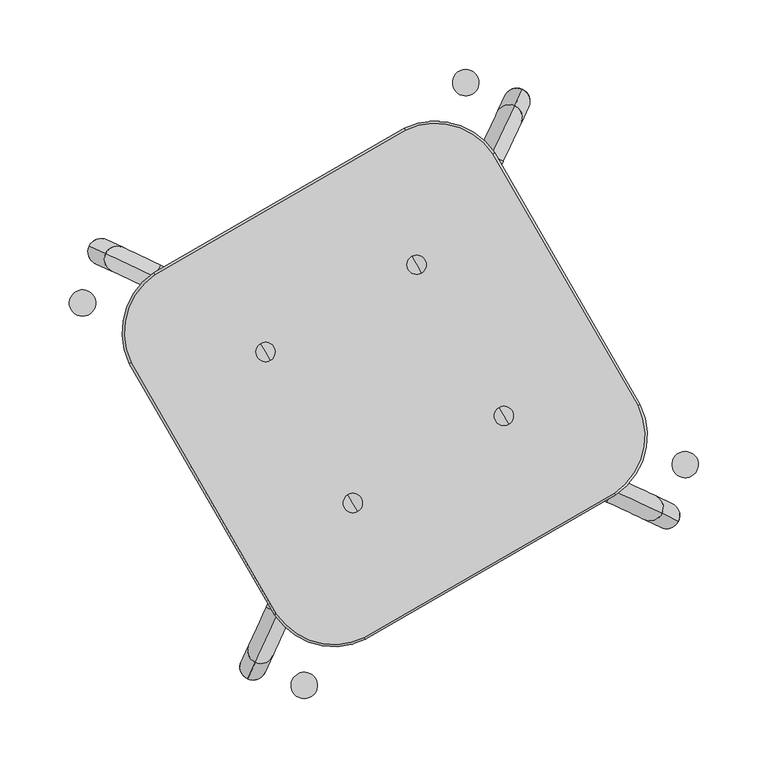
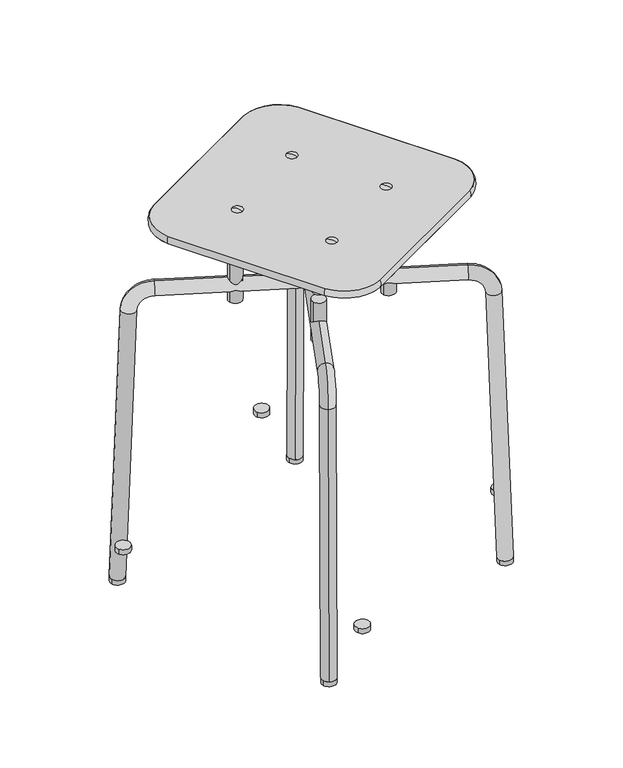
"""IFC4 building model written with IfcOpenShell, lengths in millimetres: furniture geometry, Grip NxT Stool 45 Stack : 45 Unupholstered."""

from ifc_helpers import new_model, si_unit, point, frame, frame_2d, origin, place, context, project, spatial, polyline, circle_curve, ellipse_curve, trimmed, segment, composite_curve, outline, extrude, source, transform, mapped, element, save
from ifc_brep_helpers import plane_surface, cylinder_surface, revolved_surface, advanced_brep


def furniture_2fb2c996(model_context):
    return source(origin(), model_context, "Body", "SolidModel", [
        extrude(outline(composite_curve([segment(trimmed(circle_curve(frame_2d((-22.9244347, -85.9798092)), 9.0), [point((-30.7186634, -90.4798092))], [point((-15.1302061, -81.4798092))], False, "CARTESIAN"), True, "CONTINUOUS"), segment(trimmed(circle_curve(frame_2d((-22.9244347, -85.9798092)), 9.0), [point((-15.1302061, -81.4798092))], [point((-30.7186634, -90.4798092))], False, "CARTESIAN"), True, "CONTINUOUS")], self_intersect=False)), frame((0.0, 0.0, 598.5318909), z_axis=(0.0, 0.0, 1.0), x_axis=(1.0, 0.0, 0.0)), (0.0, 0.0, 1.0), 56.7956238),
        extrude(outline(composite_curve([segment(trimmed(circle_curve(frame_2d((-85.915101, 23.0065551)), 9.0), [point((-93.7093296, 18.5065551))], [point((-78.1208723, 27.5065551))], False, "CARTESIAN"), True, "CONTINUOUS"), segment(trimmed(circle_curve(frame_2d((-85.915101, 23.0065551)), 9.0), [point((-78.1208723, 27.5065551))], [point((-93.7093296, 18.5065551))], False, "CARTESIAN"), True, "CONTINUOUS")], self_intersect=False)), frame((0.0, 0.0, 598.5318909), z_axis=(0.0, 0.0, 1.0), x_axis=(1.0, 0.0, 0.0)), (0.0, 0.0, 1.0), 56.7956238),
        extrude(outline(composite_curve([segment(trimmed(circle_curve(frame_2d((23.2528528, 85.7629699)), 9.0), [point((31.0470814, 90.2629699))], [point((15.4586241, 81.2629699))], False, "CARTESIAN"), True, "CONTINUOUS"), segment(trimmed(circle_curve(frame_2d((23.2528528, 85.7629699)), 9.0), [point((15.4586241, 81.2629699))], [point((31.0470814, 90.2629699))], False, "CARTESIAN"), True, "CONTINUOUS")], self_intersect=False)), frame((0.0, 0.0, 598.5318909), z_axis=(0.0, 0.0, 1.0), x_axis=(1.0, 0.0, 0.0)), (0.0, 0.0, 1.0), 56.7956238),
        extrude(outline(composite_curve([segment(trimmed(circle_curve(frame_2d((85.9229164, -23.1367618)), 9.0), [point((93.717145, -18.6367618))], [point((78.1286877, -27.6367618))], False, "CARTESIAN"), True, "CONTINUOUS"), segment(trimmed(circle_curve(frame_2d((85.9229164, -23.1367618)), 9.0), [point((78.1286877, -27.6367618))], [point((93.717145, -18.6367618))], False, "CARTESIAN"), True, "CONTINUOUS")], self_intersect=False)), frame((0.0, 0.0, 598.5318909), z_axis=(0.0, 0.0, 1.0), x_axis=(1.0, 0.0, 0.0)), (0.0, 0.0, 1.0), 56.7956238),
        extrude(outline(composite_curve([segment(trimmed(circle_curve(frame_2d((-58.0290526, -217.3051882)), 9.5), [point((-66.2562939, -222.0551882))], [point((-49.8018112, -212.5551882))], False, "CARTESIAN"), True, "CONTINUOUS"), segment(trimmed(circle_curve(frame_2d((-58.0290526, -217.3051882)), 9.5), [point((-49.8018112, -212.5551882))], [point((-66.2562939, -222.0551882))], False, "CARTESIAN"), True, "CONTINUOUS")], self_intersect=False)), frame((0.0, 0.0, 210.0), z_axis=(0.0, 0.0, 1.0), x_axis=(1.0, 0.0, 0.0)), (0.0, 0.0, 1.0), 7.0),
        extrude(outline(composite_curve([segment(trimmed(circle_curve(frame_2d((-217.8743959, 58.3859005)), 9.5), [point((-226.1016372, 53.6359005))], [point((-209.6471545, 63.1359005))], False, "CARTESIAN"), True, "CONTINUOUS"), segment(trimmed(circle_curve(frame_2d((-217.8743959, 58.3859005)), 9.5), [point((-209.6471545, 63.1359005))], [point((-226.1016372, 53.6359005))], False, "CARTESIAN"), True, "CONTINUOUS")], self_intersect=False)), frame((0.0, 0.0, 210.0), z_axis=(0.0, 0.0, 1.0), x_axis=(1.0, 0.0, 0.0)), (0.0, 0.0, 1.0), 7.0),
        extrude(outline(composite_curve([segment(trimmed(circle_curve(frame_2d((58.3736353, 217.266252)), 9.5325021), [point((50.1182463, 212.500001))], [point((66.6290244, 222.0325031))], False, "CARTESIAN"), True, "CONTINUOUS"), segment(trimmed(circle_curve(frame_2d((58.3736353, 217.266252)), 9.5325021), [point((66.6290244, 222.0325031))], [point((50.1182463, 212.500001))], False, "CARTESIAN"), True, "CONTINUOUS")], self_intersect=False)), frame((0.0, 0.0, 210.0), z_axis=(0.0, 0.0, 1.0), x_axis=(1.0, 0.0, 0.0)), (0.0, 0.0, 1.0), 7.0),
        extrude(outline(composite_curve([segment(trimmed(circle_curve(frame_2d((216.5856759, -58.0430458)), 9.5), [point((208.3584346, -62.7930458))], [point((224.8129172, -53.2930458))], False, "CARTESIAN"), True, "CONTINUOUS"), segment(trimmed(circle_curve(frame_2d((216.5856759, -58.0430458)), 9.5), [point((224.8129172, -53.2930458))], [point((208.3584346, -62.7930458))], False, "CARTESIAN"), True, "CONTINUOUS")], self_intersect=False)), frame((0.0, 0.0, 210.0), z_axis=(0.0, 0.0, 1.0), x_axis=(1.0, 0.0, 0.0)), (0.0, 0.0, 1.0), 7.0),
        advanced_brep(
        [(26.4675422, 79.8861202, 665.3895874), (19.5207725, 91.9182783, 665.3895874), (22.9941574, 85.9021992, 665.3895874), (22.9941574, 85.9021992, 666.5699158)],
        [
            (0, 1, circle_curve(frame((22.9941574, 85.9021992, 665.3895874), z_axis=(0.0, 0.0, -1.0), x_axis=(-0.499999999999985, 0.8660254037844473, 0.0)), 6.9467697)),
            (1, 2),
            (2, 0),
            (1, 0, circle_curve(frame((22.9941574, 85.9021992, 665.3895874), z_axis=(0.0, 0.0, -1.0), x_axis=(-0.499999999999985, 0.8660254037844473, 0.0)), 6.9467697)),
            (3, 1, circle_curve(frame((22.8806318, 86.0988312, 646.8735995), z_axis=(-0.8660254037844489, -0.4999999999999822, 0.0), x_axis=(-0.4999999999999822, 0.8660254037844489, 0.0)), 19.6976249)),
            (0, 3, circle_curve(frame((23.1076829, 85.7055672, 646.8735995), z_axis=(-0.8660254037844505, -0.49999999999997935, 0.0), x_axis=(0.49999999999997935, -0.8660254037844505, 0.0)), 19.6976249)),
        ],
        [
            plane_surface(frame((22.9941574, 85.9021992, 665.3895874), z_axis=(0.0, 0.0, -1.0000000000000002), x_axis=(-0.49999999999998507, 0.8660254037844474, 0.0))),
            revolved_surface(trimmed(ellipse_curve(frame((22.8806318, 86.0988312, 646.8735995), z_axis=(0.8660254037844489, 0.4999999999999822, 0.0), x_axis=(-0.4999999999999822, 0.8660254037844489, 0.0)), 19.6976249, 19.6976249), [point((19.5207725, 91.9182783, 665.3895874))], [point((22.9941574, 85.9021992, 666.5699158))], True, "CARTESIAN"), (22.9941574, 85.9021992, 666.2266692), (0.0, 0.0, 1.0)),
        ],
        [
            (0, [[1, 2, 3]]),
            (0, [[4, -3, -2]]),
            (1, [[5, -1, 6]]),
            (1, [[-6, -4, -5]]),
        ],
    ),
        advanced_brep(
        [(85.8905654, -23.0375752, 665.3895874), (89.3639503, -29.0536542, 665.3895874), (82.4171806, -17.0214961, 665.3895874), (85.8905654, -23.0375752, 666.5699158)],
        [
            (0, 1),
            (1, 2, circle_curve(frame((85.8905654, -23.0375752, 665.3895874), z_axis=(0.0, 0.0, -1.0), x_axis=(0.499999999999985, -0.8660254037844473, 0.0)), 6.9467697)),
            (2, 0),
            (2, 1, circle_curve(frame((85.8905654, -23.0375752, 665.3895874), z_axis=(0.0, 0.0, -1.0), x_axis=(0.499999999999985, -0.8660254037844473, 0.0)), 6.9467697)),
            (1, 3, circle_curve(frame((86.004091, -23.2342072, 646.8735995), z_axis=(-0.8660254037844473, -0.499999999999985, 0.0), x_axis=(0.499999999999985, -0.8660254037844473, 0.0)), 19.6976249)),
            (3, 2, circle_curve(frame((85.7770399, -22.8409432, 646.8735995), z_axis=(-0.8660254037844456, -0.4999999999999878, 0.0), x_axis=(-0.4999999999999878, 0.8660254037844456, 0.0)), 19.6976249)),
        ],
        [
            plane_surface(frame((85.8905654, -23.0375752, 665.3895874), z_axis=(0.0, 0.0, -1.0000000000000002), x_axis=(0.49999999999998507, -0.8660254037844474, 0.0))),
            revolved_surface(trimmed(ellipse_curve(frame((86.004091, -23.2342072, 646.8735995), z_axis=(0.8660254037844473, 0.499999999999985, 0.0), x_axis=(0.499999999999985, -0.8660254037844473, 0.0)), 19.6976249, 19.6976249), [point((85.8905654, -23.0375752, 666.5699158))], [point((89.3639503, -29.0536542, 665.3895874))], True, "CARTESIAN"), (85.8905654, -23.0375752, 666.2266692), (0.0, 0.0, -1.0)),
        ],
        [
            (0, [[1, 2, 3]]),
            (0, [[-3, 4, -1]]),
            (1, [[-2, 5, 6]]),
            (1, [[-4, -6, -5]]),
        ],
    ),
        advanced_brep(
        [(-85.8905654, 23.0375752, 665.3895874), (-89.3639503, 29.0536542, 665.3895874), (-82.4171806, 17.0214961, 665.3895874), (-85.8905654, 23.0375752, 666.5699158)],
        [
            (0, 1),
            (1, 2, circle_curve(frame((-85.8905654, 23.0375752, 665.3895874), z_axis=(0.0, 0.0, -1.0), x_axis=(-0.4999999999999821, 0.8660254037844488, 0.0)), 6.9467697)),
            (2, 0),
            (2, 1, circle_curve(frame((-85.8905654, 23.0375752, 665.3895874), z_axis=(0.0, 0.0, -1.0), x_axis=(-0.4999999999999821, 0.8660254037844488, 0.0)), 6.9467697)),
            (1, 3, circle_curve(frame((-86.004091, 23.2342072, 646.8735995), z_axis=(0.8660254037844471, 0.49999999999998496, 0.0), x_axis=(-0.49999999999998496, 0.8660254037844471, 0.0)), 19.6976249)),
            (3, 2, circle_curve(frame((-85.7770399, 22.8409432, 646.8735995), z_axis=(0.8660254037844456, 0.4999999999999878, 0.0), x_axis=(0.4999999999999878, -0.8660254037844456, 0.0)), 19.6976249)),
        ],
        [
            plane_surface(frame((-85.8905654, 23.0375752, 665.3895874), z_axis=(0.0, 0.0, -1.0), x_axis=(-0.4999999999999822, 0.8660254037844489, 0.0))),
            revolved_surface(trimmed(ellipse_curve(frame((-86.004091, 23.2342072, 646.8735995), z_axis=(-0.8660254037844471, -0.49999999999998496, 0.0), x_axis=(-0.49999999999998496, 0.8660254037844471, 0.0)), 19.6976249, 19.6976249), [point((-85.8905654, 23.0375752, 666.5699158))], [point((-89.3639503, 29.0536542, 665.3895874))], True, "CARTESIAN"), (-85.8905654, 23.0375752, 666.2266692), (0.0, 0.0, -1.0)),
        ],
        [
            (0, [[1, 2, 3]]),
            (0, [[-3, 4, -1]]),
            (1, [[-2, 5, 6]]),
            (1, [[-4, -6, -5]]),
        ],
    ),
        advanced_brep(
        [(-26.4675422, -79.8861202, 665.3895874), (-19.5207725, -91.9182783, 665.3895874), (-22.9941574, -85.9021992, 665.3895874), (-22.9941574, -85.9021992, 666.5699158)],
        [
            (0, 1, circle_curve(frame((-22.9941574, -85.9021992, 665.3895874), z_axis=(0.0, 0.0, -1.0), x_axis=(0.4999999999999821, -0.8660254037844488, 0.0)), 6.9467697)),
            (1, 2),
            (2, 0),
            (1, 0, circle_curve(frame((-22.9941574, -85.9021992, 665.3895874), z_axis=(0.0, 0.0, -1.0), x_axis=(0.4999999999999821, -0.8660254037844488, 0.0)), 6.9467697)),
            (3, 1, circle_curve(frame((-22.8806318, -86.0988312, 646.8735995), z_axis=(0.8660254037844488, 0.4999999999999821, 0.0), x_axis=(0.4999999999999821, -0.8660254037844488, 0.0)), 19.6976249)),
            (0, 3, circle_curve(frame((-23.1076829, -85.7055672, 646.8735995), z_axis=(0.8660254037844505, 0.49999999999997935, 0.0), x_axis=(-0.49999999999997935, 0.8660254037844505, 0.0)), 19.6976249)),
        ],
        [
            plane_surface(frame((-22.9941574, -85.9021992, 665.3895874), z_axis=(0.0, 0.0, -1.0), x_axis=(0.4999999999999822, -0.8660254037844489, 0.0))),
            revolved_surface(trimmed(ellipse_curve(frame((-22.8806318, -86.0988312, 646.8735995), z_axis=(-0.8660254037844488, -0.4999999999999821, 0.0), x_axis=(0.4999999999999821, -0.8660254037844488, 0.0)), 19.6976249, 19.6976249), [point((-19.5207725, -91.9182783, 665.3895874))], [point((-22.9941574, -85.9021992, 666.5699158))], True, "CARTESIAN"), (-22.9941574, -85.9021992, 666.2266692), (0.0, 0.0, 1.0)),
        ],
        [
            (0, [[1, 2, 3]]),
            (0, [[4, -3, -2]]),
            (1, [[5, -1, 6]]),
            (1, [[-6, -4, -5]]),
        ],
    ),
        advanced_brep(
        [(-78.0446394, -165.8920447, 665.4041136), (-14.6591499, -182.8643996, 665.4041136), (-14.6591499, -182.8643996, 655.4041138), (-78.0446394, -165.8920447, 655.4041138), (-182.6890447, 15.3573819, 665.4041136), (-182.6890447, 15.3573819, 655.4041138), (-165.6947904, 78.7370036, 665.4041136), (-165.6947904, 78.7370036, 655.4041138), (14.6591499, 182.8643996, 665.4041136), (14.6591499, 182.8643996, 655.4041138), (78.0446394, 165.8920447, 665.4041136), (78.0446394, 165.8920447, 655.4041138), (182.6890447, -15.3573819, 665.4041136), (182.6890447, -15.3573819, 655.4041138), (165.6947904, -78.7370036, 665.4041136), (165.6947904, -78.7370036, 655.4041138)],
        [
            (0, 1, circle_curve(frame((-36.592942, -137.9321309, 665.4041136), z_axis=(0.0, 0.0, 1.0), x_axis=(0.43867584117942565, -0.8986453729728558, 0.0)), 50.0)),
            (1, 2),
            (2, 3, circle_curve(frame((-36.592942, -137.9321309, 655.4041138), z_axis=(0.0, 0.0, -1.0), x_axis=(0.43867584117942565, -0.8986453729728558, 0.0)), 50.0)),
            (3, 0),
            (4, 0, circle_curve(frame((1165.506285, 672.9053674, 665.4041136), z_axis=(0.0, 0.0, 1.0), x_axis=(-0.8290339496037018, -0.5591982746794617, 0.0)), 1500.0)),
            (3, 5, circle_curve(frame((1165.506285, 672.9053674, 655.4041138), z_axis=(0.0, 0.0, -1.0), x_axis=(-0.8290339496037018, -0.5591982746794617, 0.0)), 1500.0)),
            (5, 4),
            (6, 4, circle_curve(frame((-137.7492004, 37.2756481, 665.4041136), z_axis=(0.0, 0.0, 1.0), x_axis=(-0.8987968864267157, -0.43836532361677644, 0.0)), 50.0)),
            (5, 7, circle_curve(frame((-137.7492004, 37.2756481, 655.4041138), z_axis=(0.0, 0.0, -1.0), x_axis=(-0.8987968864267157, -0.43836532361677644, 0.0)), 50.0)),
            (7, 6),
            (8, 6, circle_curve(frame((672.6729117, -1165.1036599, 665.4041136), z_axis=(0.0, 0.0, 1.0), x_axis=(-0.558911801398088, 0.8292271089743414, 0.0)), 1500.0)),
            (7, 9, circle_curve(frame((672.6729117, -1165.1036599, 655.4041138), z_axis=(0.0, 0.0, -1.0), x_axis=(-0.558911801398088, 0.8292271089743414, 0.0)), 1500.0)),
            (9, 8),
            (10, 8, circle_curve(frame((36.592942, 137.9321309, 665.4041136), z_axis=(0.0, 0.0, 1.0), x_axis=(-0.43867584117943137, 0.8986453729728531, 0.0)), 50.0)),
            (9, 11, circle_curve(frame((36.592942, 137.9321309, 655.4041138), z_axis=(0.0, 0.0, -1.0), x_axis=(-0.43867584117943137, 0.8986453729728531, 0.0)), 50.0)),
            (11, 10),
            (12, 10, circle_curve(frame((-1165.506285, -672.9053674, 665.4041136), z_axis=(0.0, 0.0, 1.0), x_axis=(0.8290339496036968, 0.559198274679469, 0.0)), 1500.0)),
            (11, 13, circle_curve(frame((-1165.506285, -672.9053674, 655.4041138), z_axis=(0.0, 0.0, -1.0), x_axis=(0.8290339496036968, 0.559198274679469, 0.0)), 1500.0)),
            (13, 12),
            (14, 12, circle_curve(frame((137.7492004, -37.2756481, 665.4041136), z_axis=(0.0, 0.0, 1.0), x_axis=(0.8987968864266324, 0.4383653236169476, 0.0)), 50.0)),
            (13, 15, circle_curve(frame((137.7492004, -37.2756481, 655.4041138), z_axis=(0.0, 0.0, -1.0), x_axis=(0.8987968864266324, 0.4383653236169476, 0.0)), 50.0)),
            (15, 14),
            (1, 14, circle_curve(frame((-672.6729117, 1165.1036599, 665.4041136), z_axis=(0.0, 0.0, 1.0), x_axis=(0.5589118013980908, -0.8292271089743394, 0.0)), 1500.0)),
            (15, 2, circle_curve(frame((-672.6729117, 1165.1036599, 655.4041138), z_axis=(0.0, 0.0, -1.0), x_axis=(0.5589118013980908, -0.8292271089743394, 0.0)), 1500.0)),
            (2, 1, circle_curve(frame((-17.9418993, -176.1395533, 660.4041137), z_axis=(-0.8986453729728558, -0.4386758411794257, 0.0), x_axis=(0.4386758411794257, -0.8986453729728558, 0.0)), 9.0)),
            (0, 3, circle_curve(frame((-71.8407174, -161.7073879, 660.4041137), z_axis=(0.5591982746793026, -0.8290339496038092, 0.0), x_axis=(-0.8290339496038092, -0.5591982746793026, 0.0)), 9.0)),
            (4, 5, circle_curve(frame((-175.9630646, 18.6378077, 660.4041137), z_axis=(0.43836532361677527, -0.8987968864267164, 0.0), x_axis=(-0.8987968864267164, -0.43836532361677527, 0.0)), 9.0)),
            (6, 7, circle_curve(frame((-161.5122775, 72.5316361, 660.4041137), z_axis=(-0.8292271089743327, -0.5589118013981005, 0.0), x_axis=(-0.5589118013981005, 0.8292271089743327, 0.0)), 9.0)),
            (8, 9, circle_curve(frame((17.9418993, 176.1395533, 660.4041137), z_axis=(-0.8986453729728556, -0.4386758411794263, 0.0), x_axis=(-0.4386758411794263, 0.8986453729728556, 0.0)), 9.0)),
            (10, 11, circle_curve(frame((71.8407174, 161.7073879, 660.4041137), z_axis=(-0.5591982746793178, 0.829033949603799, 0.0), x_axis=(0.829033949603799, 0.5591982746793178, 0.0)), 9.0)),
            (12, 13, circle_curve(frame((175.9630646, -18.6378077, 660.4041137), z_axis=(-0.43836532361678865, 0.8987968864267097, 0.0), x_axis=(0.8987968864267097, 0.43836532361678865, 0.0)), 9.0)),
            (14, 15, circle_curve(frame((161.5122775, -72.5316361, 660.4041137), z_axis=(0.8292271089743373, 0.5589118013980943, 0.0), x_axis=(0.5589118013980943, -0.8292271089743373, 0.0)), 9.0)),
        ],
        [
            revolved_surface(polyline([(-14.65914994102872, -182.86439954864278, 655.4041138), (-14.65914994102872, -182.86439954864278, 665.4041136)]), (-36.592942, -137.9321309, 665.4041136), (0.0, 0.0, -1.0)),
            revolved_surface(polyline([(-78.04463940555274, -165.89204461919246, 655.4041138), (-78.04463940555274, -165.89204461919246, 665.4041136)]), (1165.506285, 672.9053674, 665.4041136), (0.0, 0.0, -1.0)),
            revolved_surface(polyline([(-182.6890447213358, 15.357381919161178, 655.4041138), (-182.6890447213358, 15.357381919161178, 665.4041136)]), (-137.7492004, 37.2756481, 665.4041136), (0.0, 0.0, -1.0)),
            revolved_surface(polyline([(-165.69479039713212, 78.73700356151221, 655.4041138), (-165.69479039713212, 78.73700356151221, 665.4041136)]), (672.6729117, -1165.1036599, 665.4041136), (0.0, 0.0, -1.0)),
            revolved_surface(polyline([(14.659149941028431, 182.86439954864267, 655.4041138), (14.659149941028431, 182.86439954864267, 665.4041136)]), (36.592942, 137.9321309, 665.4041136), (0.0, 0.0, -1.0)),
            revolved_surface(polyline([(78.04463940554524, 165.8920446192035, 655.4041138), (78.04463940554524, 165.8920446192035, 665.4041136)]), (-1165.506285, -672.9053674, 665.4041136), (0.0, 0.0, -1.0)),
            revolved_surface(polyline([(182.68904472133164, -15.357381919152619, 655.4041138), (182.68904472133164, -15.357381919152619, 665.4041136)]), (137.7492004, -37.2756481, 665.4041136), (0.0, 0.0, -1.0)),
            revolved_surface(polyline([(165.69479039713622, -78.73700356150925, 655.4041138), (165.69479039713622, -78.73700356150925, 665.4041136)]), (-672.6729117, 1165.1036599, 665.4041136), (0.0, 0.0, -1.0)),
            revolved_surface(trimmed(ellipse_curve(frame((-17.9418993, -176.1395533, 660.4041137), z_axis=(0.8986453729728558, 0.4386758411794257, 0.0), x_axis=(0.4386758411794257, -0.8986453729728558, 0.0)), 9.0, 9.0), [point((-14.6591499, -182.8643996, 665.4041136))], [point((-14.6591499, -182.8643996, 655.4041138))], True, "CARTESIAN"), (-36.592942, -137.9321309, 665.4041136), (0.0, 0.0, -1.0)),
            revolved_surface(trimmed(ellipse_curve(frame((-71.8407174, -161.7073879, 660.4041137), z_axis=(0.5591982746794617, -0.8290339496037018, 0.0), x_axis=(-0.8290339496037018, -0.5591982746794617, 0.0)), 9.0, 9.0), [point((-78.0446394, -165.8920447, 665.4041136))], [point((-78.0446394, -165.8920447, 655.4041138))], True, "CARTESIAN"), (1165.506285, 672.9053674, 665.4041136), (0.0, 0.0, -1.0)),
            revolved_surface(trimmed(ellipse_curve(frame((-175.9630646, 18.6378077, 660.4041137), z_axis=(0.4383653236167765, -0.8987968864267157, 0.0), x_axis=(-0.8987968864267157, -0.4383653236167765, 0.0)), 9.0, 9.0), [point((-182.6890447, 15.3573819, 665.4041136))], [point((-182.6890447, 15.3573819, 655.4041138))], True, "CARTESIAN"), (-137.7492004, 37.2756481, 665.4041136), (0.0, 0.0, -1.0)),
            revolved_surface(trimmed(ellipse_curve(frame((-161.5122775, 72.5316361, 660.4041137), z_axis=(-0.8292271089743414, -0.558911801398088, 0.0), x_axis=(-0.558911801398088, 0.8292271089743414, 0.0)), 9.0, 9.0), [point((-165.6947904, 78.7370036, 665.4041136))], [point((-165.6947904, 78.7370036, 655.4041138))], True, "CARTESIAN"), (672.6729117, -1165.1036599, 665.4041136), (0.0, 0.0, -1.0)),
            revolved_surface(trimmed(ellipse_curve(frame((17.9418993, 176.1395533, 660.4041137), z_axis=(-0.8986453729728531, -0.43867584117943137, 0.0), x_axis=(-0.43867584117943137, 0.8986453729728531, 0.0)), 9.0, 9.0), [point((14.6591499, 182.8643996, 665.4041136))], [point((14.6591499, 182.8643996, 655.4041138))], True, "CARTESIAN"), (36.592942, 137.9321309, 665.4041136), (0.0, 0.0, -1.0)),
            revolved_surface(trimmed(ellipse_curve(frame((71.8407174, 161.7073879, 660.4041137), z_axis=(-0.559198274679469, 0.8290339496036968, 0.0), x_axis=(0.8290339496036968, 0.559198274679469, 0.0)), 9.0, 9.0), [point((78.0446394, 165.8920447, 665.4041136))], [point((78.0446394, 165.8920447, 655.4041138))], True, "CARTESIAN"), (-1165.506285, -672.9053674, 665.4041136), (0.0, 0.0, -1.0)),
            revolved_surface(trimmed(ellipse_curve(frame((175.9630646, -18.6378077, 660.4041137), z_axis=(-0.4383653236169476, 0.8987968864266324, 0.0), x_axis=(0.8987968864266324, 0.4383653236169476, 0.0)), 9.0, 9.0), [point((182.6890447, -15.3573819, 665.4041136))], [point((182.6890447, -15.3573819, 655.4041138))], True, "CARTESIAN"), (137.7492004, -37.2756481, 665.4041136), (0.0, 0.0, -1.0)),
            revolved_surface(trimmed(ellipse_curve(frame((161.5122775, -72.5316361, 660.4041137), z_axis=(0.8292271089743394, 0.5589118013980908, 0.0), x_axis=(0.5589118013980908, -0.8292271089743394, 0.0)), 9.0, 9.0), [point((165.6947904, -78.7370036, 665.4041136))], [point((165.6947904, -78.7370036, 655.4041138))], True, "CARTESIAN"), (-672.6729117, 1165.1036599, 665.4041136), (0.0, 0.0, -1.0)),
        ],
        [
            (0, [[1, 2, 3, 4]]),
            (1, [[5, -4, 6, 7]]),
            (2, [[8, -7, 9, 10]]),
            (3, [[11, -10, 12, 13]]),
            (4, [[14, -13, 15, 16]]),
            (5, [[17, -16, 18, 19]]),
            (6, [[20, -19, 21, 22]]),
            (7, [[23, -22, 24, -2]]),
            (8, [[-3, 25, -1, 26]]),
            (9, [[-6, -26, -5, 27]]),
            (10, [[-9, -27, -8, 28]]),
            (11, [[-12, -28, -11, 29]]),
            (12, [[-15, -29, -14, 30]]),
            (13, [[-18, -30, -17, 31]]),
            (14, [[-21, -31, -20, 32]]),
            (15, [[-24, -32, -23, -25]]),
        ],
    ),
        extrude(outline(composite_curve([segment(trimmed(circle_curve(frame_2d((36.592942, 137.9321309)), 50.0), [point((14.6591499, 182.8643996))], [point((78.0446394, 165.8920447))], False, "CARTESIAN"), True, "CONTINUOUS"), segment(trimmed(circle_curve(frame_2d((-1165.506285, -672.9053674)), 1500.0), [point((78.0446394, 165.8920447))], [point((182.6890447, -15.3573819))], False, "CARTESIAN"), True, "CONTINUOUS"), segment(trimmed(circle_curve(frame_2d((137.7492004, -37.2756481)), 50.0), [point((182.6890447, -15.3573819))], [point((165.6947904, -78.7370036))], False, "CARTESIAN"), True, "CONTINUOUS"), segment(trimmed(circle_curve(frame_2d((-672.6729117, 1165.1036599)), 1500.0), [point((165.6947904, -78.7370036))], [point((-14.6591499, -182.8643996))], False, "CARTESIAN"), True, "CONTINUOUS"), segment(trimmed(circle_curve(frame_2d((-36.592942, -137.9321309)), 50.0), [point((-14.6591499, -182.8643996))], [point((-78.0446394, -165.8920447))], False, "CARTESIAN"), True, "CONTINUOUS"), segment(trimmed(circle_curve(frame_2d((1165.506285, 672.9053674)), 1500.0), [point((-78.0446394, -165.8920447))], [point((-182.6890447, 15.3573819))], False, "CARTESIAN"), True, "CONTINUOUS"), segment(trimmed(circle_curve(frame_2d((-137.7492004, 37.2756481)), 50.0), [point((-182.6890447, 15.3573819))], [point((-165.6947904, 78.7370036))], False, "CARTESIAN"), True, "CONTINUOUS"), segment(trimmed(circle_curve(frame_2d((672.6729117, -1165.1036599)), 1500.0), [point((-165.6947904, 78.7370036))], [point((14.6591499, 182.8643996))], False, "CARTESIAN"), True, "CONTINUOUS")], self_intersect=False)), frame((0.0, 0.0, 655.3753358), z_axis=(0.0, 0.0, 1.0), x_axis=(1.0, 0.0, 0.0)), (0.0, 0.0, 1.0), 9.9999998),
        advanced_brep(
        [(211.8093482, -98.7683212, 146.7653221), (194.5999902, -90.7434657, 146.1022316), (199.9441386, -93.235483, 521.66572), (182.7347805, -85.2106275, 521.0026295), (164.1667888, -76.5522309, 559.7871899), (164.1667888, -76.5522309, 540.7871899), (0.1684531, -0.078551, 559.7871899), (0.1684531, -0.078551, 540.7871899), (-165.4741262, 77.1618523, 559.7871899), (-165.4741262, 77.1618523, 540.7871899), (-201.2514759, 93.8451044, 521.66572), (-184.0421178, 85.820249, 521.0026295), (-213.1151948, 99.3772474, 146.812426), (-195.9058367, 91.3523919, 146.1493355), (99.2412374, 212.3837205, 146.7653221), (91.2163819, 195.1743625, 146.1022316), (93.7083993, 200.5185109, 521.66572), (85.6835438, 183.3091528, 521.0026295), (77.0251471, 164.7411611, 559.7871899), (77.0251471, 164.7411611, 540.7871899), (-76.688936, -164.8997539, 559.7871899), (-76.688936, -164.8997539, 540.7871899), (-93.3721882, -200.6771036, 521.66572), (-85.3473327, -183.4677455, 521.0026295), (-98.9043312, -212.5408225, 146.812426), (-90.8794757, -195.3314644, 146.1493355)],
        [
            (0, 1, circle_curve(frame((203.2046692, -94.7558934, 146.4337769), z_axis=(0.03162968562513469, -0.014749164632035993, -0.9993908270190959), x_axis=(-0.9057556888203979, 0.4223608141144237, -0.034899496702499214)), 9.5)),
            (1, 0, circle_curve(frame((203.2046692, -94.7558934, 146.4337769), z_axis=(0.03162968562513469, -0.014749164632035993, -0.9993908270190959), x_axis=(-0.9057556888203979, 0.4223608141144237, -0.034899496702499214)), 9.5)),
            (0, 2),
            (2, 3, circle_curve(frame((191.3394595, -89.2230553, 521.3341748), z_axis=(0.03162968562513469, -0.014749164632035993, -0.9993908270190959), x_axis=(-0.9057556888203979, 0.4223608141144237, -0.034899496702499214)), 9.5)),
            (3, 1),
            (3, 2, circle_curve(frame((191.3394595, -89.2230553, 521.3341748), z_axis=(0.03162968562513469, -0.014749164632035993, -0.9993908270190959), x_axis=(-0.9057556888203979, 0.4223608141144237, -0.034899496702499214)), 9.5)),
            (2, 4, circle_curve(frame((164.1667888, -76.5522309, 520.2871899), z_axis=(-0.4226182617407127, -0.9063077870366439, 0.0), x_axis=(0.9057556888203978, -0.4223608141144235, 0.03489949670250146)), 39.5)),
            (4, 5, circle_curve(frame((164.1667888, -76.5522309, 550.2871899), z_axis=(0.9063077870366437, -0.42261826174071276, 0.0), x_axis=(0.0, 0.0, -1.0)), 9.5)),
            (5, 3, circle_curve(frame((164.1667888, -76.5522309, 520.2871899), z_axis=(0.4226182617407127, 0.9063077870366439, 0.0), x_axis=(0.9057556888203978, -0.4223608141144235, 0.03489949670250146)), 20.5)),
            (5, 4, circle_curve(frame((164.1667888, -76.5522309, 550.2871899), z_axis=(0.9063077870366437, -0.42261826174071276, 0.0), x_axis=(0.0, 0.0, -1.0)), 9.5)),
            (4, 6),
            (6, 7, ellipse_curve(frame((0.1684531, -0.078551, 550.2871899), z_axis=(0.9396926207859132, 0.34202014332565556, 0.0), x_axis=(0.34202014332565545, -0.9396926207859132, 0.0)), 13.4350288, 9.5)),
            (7, 5),
            (8, 9, circle_curve(frame((-165.4741262, 77.1618523, 550.2871899), z_axis=(0.9063077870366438, -0.4226182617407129, 0.0), x_axis=(0.0, 0.0, -1.0)), 9.5)),
            (9, 7),
            (7, 6, ellipse_curve(frame((0.1684531, -0.078551, 550.2871899), z_axis=(-0.34202014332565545, 0.9396926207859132, 0.0), x_axis=(0.9396926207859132, 0.3420201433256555, 0.0)), 13.4350288, 9.5)),
            (6, 8),
            (7, 6, ellipse_curve(frame((0.1684531, -0.078551, 550.2871899), z_axis=(0.34202014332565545, -0.9396926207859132, 0.0), x_axis=(0.9396926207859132, 0.3420201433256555, 0.0)), 13.4350288, 9.5)),
            (9, 8, circle_curve(frame((-165.4741262, 77.1618523, 550.2871899), z_axis=(0.9063077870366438, -0.4226182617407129, 0.0), x_axis=(0.0, 0.0, -1.0)), 9.5)),
            (6, 7, ellipse_curve(frame((0.1684531, -0.078551, 550.2871899), z_axis=(-0.9396926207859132, -0.34202014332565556, 0.0), x_axis=(0.34202014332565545, -0.9396926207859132, 0.0)), 13.4350288, 9.5)),
            (8, 10, circle_curve(frame((-165.4741262, 77.1618523, 520.2871899), z_axis=(-0.4226182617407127, -0.9063077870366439, 0.0), x_axis=(0.0, 0.0, 1.0)), 39.5)),
            (10, 11, circle_curve(frame((-192.6467969, 89.8326767, 521.3341748), z_axis=(0.03162968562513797, -0.014749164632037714, 0.9993908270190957), x_axis=(0.9057556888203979, -0.42236081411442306, -0.03489949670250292)), 9.5)),
            (11, 9, circle_curve(frame((-165.4741262, 77.1618523, 520.2871899), z_axis=(0.4226182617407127, 0.9063077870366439, 0.0), x_axis=(0.0, 0.0, 1.0)), 20.5)),
            (11, 10, circle_curve(frame((-192.6467969, 89.8326767, 521.3341748), z_axis=(0.03162968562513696, -0.014749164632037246, 0.9993908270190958), x_axis=(0.905755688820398, -0.4223608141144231, -0.03489949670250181)), 9.5)),
            (12, 13, circle_curve(frame((-204.5105158, 95.3648197, 146.4808807), z_axis=(-0.03162968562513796, 0.014749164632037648, -0.9993908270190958), x_axis=(0.9057556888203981, -0.4223608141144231, -0.03489949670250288)), 9.5)),
            (13, 12, circle_curve(frame((-204.5105158, 95.3648197, 146.4808807), z_axis=(-0.03162968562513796, 0.014749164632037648, -0.9993908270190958), x_axis=(0.9057556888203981, -0.4223608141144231, -0.03489949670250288)), 9.5)),
            (10, 12),
            (13, 11),
            (14, 15, circle_curve(frame((95.2288097, 203.7790415, 146.4337769), z_axis=(0.014749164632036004, 0.03162968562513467, -0.9993908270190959), x_axis=(-0.422360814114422, -0.9057556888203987, -0.03489949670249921)), 9.5)),
            (15, 14, circle_curve(frame((95.2288097, 203.7790415, 146.4337769), z_axis=(0.014749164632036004, 0.03162968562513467, -0.9993908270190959), x_axis=(-0.422360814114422, -0.9057556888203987, -0.03489949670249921)), 9.5)),
            (14, 16),
            (16, 17, circle_curve(frame((89.6959715, 191.9138318, 521.3341748), z_axis=(0.014749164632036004, 0.03162968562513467, -0.9993908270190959), x_axis=(-0.422360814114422, -0.9057556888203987, -0.03489949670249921)), 9.5)),
            (17, 15),
            (17, 16, circle_curve(frame((89.6959715, 191.9138318, 521.3341748), z_axis=(0.014749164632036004, 0.03162968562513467, -0.9993908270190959), x_axis=(-0.422360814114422, -0.9057556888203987, -0.03489949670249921)), 9.5)),
            (16, 18, circle_curve(frame((77.0251471, 164.7411611, 520.2871899), z_axis=(0.9063077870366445, -0.4226182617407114, 0.0), x_axis=(0.42236081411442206, 0.9057556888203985, 0.03489949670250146)), 39.5)),
            (18, 19, circle_curve(frame((77.0251471, 164.7411611, 550.2871899), z_axis=(0.4226182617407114, 0.9063077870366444, 0.0), x_axis=(0.0, 0.0, -1.0)), 9.5)),
            (19, 17, circle_curve(frame((77.0251471, 164.7411611, 520.2871899), z_axis=(-0.9063077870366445, 0.4226182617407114, 0.0), x_axis=(0.42236081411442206, 0.9057556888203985, 0.03489949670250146)), 20.5)),
            (19, 18, circle_curve(frame((77.0251471, 164.7411611, 550.2871899), z_axis=(0.4226182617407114, 0.9063077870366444, 0.0), x_axis=(0.0, 0.0, -1.0)), 9.5)),
            (18, 6),
            (7, 19),
            (20, 21, circle_curve(frame((-76.688936, -164.8997539, 550.2871899), z_axis=(0.4226182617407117, 0.9063077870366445, 0.0), x_axis=(0.0, 0.0, -1.0)), 9.5)),
            (21, 7),
            (6, 20),
            (21, 20, circle_curve(frame((-76.688936, -164.8997539, 550.2871899), z_axis=(0.4226182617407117, 0.9063077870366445, 0.0), x_axis=(0.0, 0.0, -1.0)), 9.5)),
            (20, 22, circle_curve(frame((-76.688936, -164.8997539, 520.2871899), z_axis=(0.9063077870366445, -0.4226182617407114, 0.0), x_axis=(0.0, 0.0, 1.0)), 39.5)),
            (22, 23, circle_curve(frame((-89.3597604, -192.0724246, 521.3341748), z_axis=(0.014749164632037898, 0.03162968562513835, 0.9993908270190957), x_axis=(0.42236081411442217, 0.9057556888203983, -0.03489949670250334)), 9.5)),
            (23, 21, circle_curve(frame((-76.688936, -164.8997539, 520.2871899), z_axis=(-0.9063077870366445, 0.4226182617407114, 0.0), x_axis=(0.0, 0.0, 1.0)), 20.5)),
            (23, 22, circle_curve(frame((-89.3597604, -192.0724246, 521.3341748), z_axis=(0.014749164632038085, 0.03162968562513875, 0.9993908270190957), x_axis=(0.42236081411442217, 0.9057556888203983, -0.034899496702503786)), 9.5)),
            (24, 25, circle_curve(frame((-94.8919034, -203.9361435, 146.4808807), z_axis=(-0.01474916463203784, -0.031629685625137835, -0.9993908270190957), x_axis=(0.4223608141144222, 0.9057556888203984, -0.03489949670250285)), 9.5)),
            (25, 24, circle_curve(frame((-94.8919034, -203.9361435, 146.4808807), z_axis=(-0.01474916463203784, -0.031629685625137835, -0.9993908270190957), x_axis=(0.4223608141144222, 0.9057556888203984, -0.03489949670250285)), 9.5)),
            (22, 24),
            (25, 23),
        ],
        [
            plane_surface(frame((203.2046692, -94.7558934, 146.4337769), z_axis=(0.03162968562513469, -0.014749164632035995, -0.9993908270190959), x_axis=(-0.4226182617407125, -0.9063077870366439, 0.0))),
            cylinder_surface(frame((203.2046692, -94.7558934, 146.4337769), z_axis=(0.03162968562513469, -0.014749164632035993, -0.9993908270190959), x_axis=(-0.9057556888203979, 0.4223608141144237, -0.034899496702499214)), 9.5),
            revolved_surface(trimmed(ellipse_curve(frame((191.3394595, -89.2230553, 521.3341748), z_axis=(0.03162968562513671, -0.014749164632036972, -0.9993908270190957), x_axis=(-0.9057556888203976, 0.42236081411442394, -0.03489949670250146)), 9.5, 9.5), [point((199.9441386, -93.235483, 521.66572))], [point((182.7347805, -85.2106275, 521.0026295))], True, "CARTESIAN"), (164.1667888, -76.5522309, 520.2871899), (-0.4226182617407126, -0.9063077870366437, 0.0)),
            revolved_surface(trimmed(ellipse_curve(frame((191.3394595, -89.2230553, 521.3341748), z_axis=(0.03162968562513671, -0.014749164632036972, -0.9993908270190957), x_axis=(-0.9057556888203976, 0.42236081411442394, -0.03489949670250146)), 9.5, 9.5), [point((182.7347805, -85.2106275, 521.0026295))], [point((199.9441386, -93.235483, 521.66572))], True, "CARTESIAN"), (164.1667888, -76.5522309, 520.2871899), (-0.4226182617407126, -0.9063077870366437, 0.0)),
            cylinder_surface(frame((164.1667888, -76.5522309, 550.2871899), z_axis=(0.9063077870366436, -0.42261826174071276, 0.0), x_axis=(0.0, 0.0, -1.0)), 9.5),
            revolved_surface(trimmed(ellipse_curve(frame((-165.4741262, 77.1618523, 550.2871899), z_axis=(0.9063077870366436, -0.4226182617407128, 0.0), x_axis=(0.0, 0.0, -1.0)), 9.5, 9.5), [point((-165.4741262, 77.1618523, 559.7871899))], [point((-165.4741262, 77.1618523, 540.7871899))], True, "CARTESIAN"), (-165.4741262, 77.1618523, 520.2871899), (-0.4226182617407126, -0.9063077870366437, 0.0)),
            revolved_surface(trimmed(ellipse_curve(frame((-165.4741262, 77.1618523, 550.2871899), z_axis=(0.9063077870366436, -0.4226182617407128, 0.0), x_axis=(0.0, 0.0, -1.0)), 9.5, 9.5), [point((-165.4741262, 77.1618523, 540.7871899))], [point((-165.4741262, 77.1618523, 559.7871899))], True, "CARTESIAN"), (-165.4741262, 77.1618523, 520.2871899), (-0.4226182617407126, -0.9063077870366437, 0.0)),
            plane_surface(frame((-204.5105158, 95.3648197, 146.4808807), z_axis=(-0.03162968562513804, 0.014749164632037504, -0.9993908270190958), x_axis=(-0.42261826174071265, -0.9063077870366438, 0.0))),
            cylinder_surface(frame((-192.6467969, 89.8326767, 521.3341748), z_axis=(0.03162968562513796, -0.014749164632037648, 0.9993908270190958), x_axis=(0.9057556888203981, -0.4223608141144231, -0.03489949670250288)), 9.5),
            plane_surface(frame((95.2288097, 203.7790415, 146.4337769), z_axis=(0.014749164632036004, 0.03162968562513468, -0.9993908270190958), x_axis=(0.9063077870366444, -0.4226182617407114, 0.0))),
            cylinder_surface(frame((95.2288097, 203.7790415, 146.4337769), z_axis=(0.014749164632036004, 0.03162968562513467, -0.9993908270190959), x_axis=(-0.422360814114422, -0.9057556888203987, -0.03489949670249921)), 9.5),
            revolved_surface(trimmed(ellipse_curve(frame((89.6959715, 191.9138318, 521.3341748), z_axis=(0.014749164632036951, 0.03162968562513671, -0.9993908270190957), x_axis=(-0.4223608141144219, -0.9057556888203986, -0.034899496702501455)), 9.5, 9.5), [point((93.7083993, 200.5185109, 521.66572))], [point((85.6835438, 183.3091528, 521.0026295))], True, "CARTESIAN"), (77.0251471, 164.7411611, 520.2871899), (0.9063077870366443, -0.42261826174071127, 0.0)),
            revolved_surface(trimmed(ellipse_curve(frame((89.6959715, 191.9138318, 521.3341748), z_axis=(0.014749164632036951, 0.03162968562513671, -0.9993908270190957), x_axis=(-0.4223608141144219, -0.9057556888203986, -0.034899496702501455)), 9.5, 9.5), [point((85.6835438, 183.3091528, 521.0026295))], [point((93.7083993, 200.5185109, 521.66572))], True, "CARTESIAN"), (77.0251471, 164.7411611, 520.2871899), (0.9063077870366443, -0.42261826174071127, 0.0)),
            cylinder_surface(frame((77.0251471, 164.7411611, 550.2871899), z_axis=(0.4226182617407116, 0.9063077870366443, 0.0), x_axis=(0.0, 0.0, -1.0)), 9.5),
            revolved_surface(trimmed(ellipse_curve(frame((-76.688936, -164.8997539, 550.2871899), z_axis=(0.42261826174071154, 0.9063077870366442, 0.0), x_axis=(0.0, 0.0, -1.0)), 9.5, 9.5), [point((-76.688936, -164.8997539, 559.7871899))], [point((-76.688936, -164.8997539, 540.7871899))], True, "CARTESIAN"), (-76.688936, -164.8997539, 520.2871899), (0.9063077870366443, -0.42261826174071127, 0.0)),
            revolved_surface(trimmed(ellipse_curve(frame((-76.688936, -164.8997539, 550.2871899), z_axis=(0.42261826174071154, 0.9063077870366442, 0.0), x_axis=(0.0, 0.0, -1.0)), 9.5, 9.5), [point((-76.688936, -164.8997539, 540.7871899))], [point((-76.688936, -164.8997539, 559.7871899))], True, "CARTESIAN"), (-76.688936, -164.8997539, 520.2871899), (0.9063077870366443, -0.42261826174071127, 0.0)),
            plane_surface(frame((-94.8919034, -203.9361435, 146.4808807), z_axis=(-0.014749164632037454, -0.03162968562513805, -0.9993908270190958), x_axis=(0.9063077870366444, -0.4226182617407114, 0.0))),
            cylinder_surface(frame((-89.3597604, -192.0724246, 521.3341748), z_axis=(0.014749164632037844, 0.03162968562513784, 0.9993908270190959), x_axis=(0.4223608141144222, 0.9057556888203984, -0.03489949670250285)), 9.5),
        ],
        [
            (0, [[1, 2]]),
            (1, [[-1, 3, 4, 5]]),
            (1, [[-2, -5, 6, -3]]),
            (2, [[-4, 7, 8, 9]]),
            (3, [[-6, -9, 10, -7]]),
            (4, [[-8, 11, 12, 13]]),
            (4, [[14, 15, 16, 17]]),
            (4, [[-10, -13, 18, -11]]),
            (4, [[19, -17, 20, -15]]),
            (5, [[-14, 21, 22, 23]]),
            (6, [[-19, -23, 24, -21]]),
            (7, [[25, 26]]),
            (8, [[-22, 27, -26, 28]]),
            (8, [[-24, -28, -25, -27]]),
            (9, [[29, 30]]),
            (10, [[-29, 31, 32, 33]]),
            (10, [[-30, -33, 34, -31]]),
            (11, [[-32, 35, 36, 37]]),
            (12, [[-34, -37, 38, -35]]),
            (13, [[-36, 39, -18, 40]]),
            (13, [[41, 42, -12, 43]]),
            (13, [[-38, -40, -20, -39]]),
            (13, [[44, -43, -16, -42]]),
            (14, [[-41, 45, 46, 47]]),
            (15, [[-44, -47, 48, -45]]),
            (16, [[49, 50]]),
            (17, [[-46, 51, -50, 52]]),
            (17, [[-48, -52, -49, -51]]),
        ],
    ),
        extrude(outline(composite_curve([segment(trimmed(circle_curve(frame_2d((-37.5063982, -80.6927964)), 9.0), [point((-45.9636318, -83.7709777))], [point((-29.0491647, -77.6146151))], False, "CARTESIAN"), True, "CONTINUOUS"), segment(trimmed(circle_curve(frame_2d((-37.5063982, -80.6927964)), 9.0), [point((-29.0491647, -77.6146151))], [point((-45.9636318, -83.7709777))], False, "CARTESIAN"), True, "CONTINUOUS")], self_intersect=False)), frame((0.0, 0.0, 528.5318909), z_axis=(0.0, 0.0, 1.0), x_axis=(1.0, 0.0, 0.0)), (0.0, 0.0, 1.0), 56.7956238),
        extrude(outline(composite_curve([segment(trimmed(circle_curve(frame_2d((-80.6148112, 37.5760346)), 9.0), [point((-89.0720447, 34.4978533))], [point((-72.1575776, 40.6542159))], False, "CARTESIAN"), True, "CONTINUOUS"), segment(trimmed(circle_curve(frame_2d((-80.6148112, 37.5760346)), 9.0), [point((-72.1575776, 40.6542159))], [point((-89.0720447, 34.4978533))], False, "CARTESIAN"), True, "CONTINUOUS")], self_intersect=False)), frame((0.0, 0.0, 528.5318909), z_axis=(0.0, 0.0, 1.0), x_axis=(1.0, 0.0, 0.0)), (0.0, 0.0, 1.0), 56.7956238),
        extrude(outline(composite_curve([segment(trimmed(circle_curve(frame_2d((37.7921731, 80.4222222)), 9.0), [point((46.2494067, 83.5004034))], [point((29.3349395, 77.3440409))], False, "CARTESIAN"), True, "CONTINUOUS"), segment(trimmed(circle_curve(frame_2d((37.7921731, 80.4222222)), 9.0), [point((29.3349395, 77.3440409))], [point((46.2494067, 83.5004034))], False, "CARTESIAN"), True, "CONTINUOUS")], self_intersect=False)), frame((0.0, 0.0, 528.5318909), z_axis=(0.0, 0.0, 1.0), x_axis=(1.0, 0.0, 0.0)), (0.0, 0.0, 1.0), 56.7956238),
        extrude(outline(composite_curve([segment(trimmed(circle_curve(frame_2d((80.5998977, -37.7056202)), 9.0), [point((89.0571313, -34.6274389))], [point((72.1426641, -40.7838015))], False, "CARTESIAN"), True, "CONTINUOUS"), segment(trimmed(circle_curve(frame_2d((80.5998977, -37.7056202)), 9.0), [point((72.1426641, -40.7838015))], [point((89.0571313, -34.6274389))], False, "CARTESIAN"), True, "CONTINUOUS")], self_intersect=False)), frame((0.0, 0.0, 528.5318909), z_axis=(0.0, 0.0, 1.0), x_axis=(1.0, 0.0, 0.0)), (0.0, 0.0, 1.0), 56.7956238),
        extrude(outline(composite_curve([segment(trimmed(circle_curve(frame_2d((-94.8821108, -203.9271949)), 9.5), [point((-103.8091907, -207.1763863))], [point((-85.9550309, -200.6780036))], False, "CARTESIAN"), True, "CONTINUOUS"), segment(trimmed(circle_curve(frame_2d((-94.8821108, -203.9271949)), 9.5), [point((-85.9550309, -200.6780036))], [point((-103.8091907, -207.1763863))], False, "CARTESIAN"), True, "CONTINUOUS")], self_intersect=False)), frame((0.0, 0.0, 140.0), z_axis=(0.0, 0.0, 1.0), x_axis=(1.0, 0.0, 0.0)), (0.0, 0.0, 1.0), 7.0),
        extrude(outline(composite_curve([segment(trimmed(circle_curve(frame_2d((-204.425789, 95.3323793)), 9.5), [point((-213.3528689, 92.0831879))], [point((-195.4987091, 98.5815707))], False, "CARTESIAN"), True, "CONTINUOUS"), segment(trimmed(circle_curve(frame_2d((-204.425789, 95.3323793)), 9.5), [point((-195.4987091, 98.5815707))], [point((-213.3528689, 92.0831879))], False, "CARTESIAN"), True, "CONTINUOUS")], self_intersect=False)), frame((0.0, 0.0, 140.0), z_axis=(0.0, 0.0, 1.0), x_axis=(1.0, 0.0, 0.0)), (0.0, 0.0, 1.0), 7.0),
        extrude(outline(composite_curve([segment(trimmed(circle_curve(frame_2d((95.2146974, 203.8290141)), 9.5325021), [point((86.2570755, 200.5687063))], [point((104.1723193, 207.0893218))], False, "CARTESIAN"), True, "CONTINUOUS"), segment(trimmed(circle_curve(frame_2d((95.2146974, 203.8290141)), 9.5325021), [point((104.1723193, 207.0893218))], [point((86.2570755, 200.5687063))], False, "CARTESIAN"), True, "CONTINUOUS")], self_intersect=False)), frame((0.0, 0.0, 140.0), z_axis=(0.0, 0.0, 1.0), x_axis=(1.0, 0.0, 0.0)), (0.0, 0.0, 1.0), 7.0),
        extrude(outline(composite_curve([segment(trimmed(circle_curve(frame_2d((203.2161837, -94.7709494)), 9.5), [point((194.2891038, -98.0201408))], [point((212.1432636, -91.5217581))], False, "CARTESIAN"), True, "CONTINUOUS"), segment(trimmed(circle_curve(frame_2d((203.2161837, -94.7709494)), 9.5), [point((212.1432636, -91.5217581))], [point((194.2891038, -98.0201408))], False, "CARTESIAN"), True, "CONTINUOUS")], self_intersect=False)), frame((0.0, 0.0, 140.0), z_axis=(0.0, 0.0, 1.0), x_axis=(1.0, 0.0, 0.0)), (0.0, 0.0, 1.0), 7.0),
        advanced_brep(
        [(39.93752, 74.07643, 595.3895874), (35.1856496, 87.1320865, 595.3895874), (37.5615848, 80.6042583, 595.3895874), (37.5615848, 80.6042583, 596.5699158)],
        [
            (0, 1, circle_curve(frame((37.5615848, 80.6042583, 595.3895874), z_axis=(0.0, 0.0, -1.0), x_axis=(-0.34202014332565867, 0.939692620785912, 0.0)), 6.9467697)),
            (1, 2),
            (2, 0),
            (1, 0, circle_curve(frame((37.5615848, 80.6042583, 595.3895874), z_axis=(0.0, 0.0, -1.0), x_axis=(-0.34202014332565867, 0.939692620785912, 0.0)), 6.9467697)),
            (3, 1, circle_curve(frame((37.4839288, 80.8176165, 576.8735995), z_axis=(-0.9396926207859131, -0.34202014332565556, 0.0), x_axis=(-0.34202014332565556, 0.9396926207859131, 0.0)), 19.6976249)),
            (0, 3, circle_curve(frame((37.6392408, 80.3909001, 576.8735995), z_axis=(-0.9396926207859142, -0.34202014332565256, 0.0), x_axis=(0.34202014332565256, -0.9396926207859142, 0.0)), 19.6976249)),
        ],
        [
            plane_surface(frame((37.5615848, 80.6042583, 595.3895874), z_axis=(0.0, 0.0, -1.0), x_axis=(-0.3420201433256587, 0.9396926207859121, 0.0))),
            revolved_surface(trimmed(ellipse_curve(frame((37.4839288, 80.8176165, 576.8735995), z_axis=(0.9396926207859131, 0.34202014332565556, 0.0), x_axis=(-0.34202014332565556, 0.9396926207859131, 0.0)), 19.6976249, 19.6976249), [point((35.1856496, 87.1320865, 595.3895874))], [point((37.5615848, 80.6042583, 596.5699158))], True, "CARTESIAN"), (37.5615848, 80.6042583, 596.2266692), (0.0, 0.0, 1.0)),
        ],
        [
            (0, [[1, 2, 3]]),
            (0, [[4, -3, -2]]),
            (1, [[5, -1, 6]]),
            (1, [[-6, -4, -5]]),
        ],
    ),
        advanced_brep(
        [(80.5852618, -37.6023228, 595.3895874), (82.961197, -44.1301511, 595.3895874), (78.2093266, -31.0744946, 595.3895874), (80.5852618, -37.6023228, 596.5699158)],
        [
            (0, 1),
            (1, 2, circle_curve(frame((80.5852618, -37.6023228, 595.3895874), z_axis=(0.0, 0.0, -1.0), x_axis=(0.34202014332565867, -0.939692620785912, 0.0)), 6.9467697)),
            (2, 0),
            (2, 1, circle_curve(frame((80.5852618, -37.6023228, 595.3895874), z_axis=(0.0, 0.0, -1.0), x_axis=(0.34202014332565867, -0.939692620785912, 0.0)), 6.9467697)),
            (1, 3, circle_curve(frame((80.6629178, -37.815681, 576.8735995), z_axis=(-0.939692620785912, -0.34202014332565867, 0.0), x_axis=(0.34202014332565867, -0.939692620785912, 0.0)), 19.6976249)),
            (3, 2, circle_curve(frame((80.5076058, -37.3889646, 576.8735995), z_axis=(-0.9396926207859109, -0.3420201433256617, 0.0), x_axis=(-0.3420201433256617, 0.9396926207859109, 0.0)), 19.6976249)),
        ],
        [
            plane_surface(frame((80.5852618, -37.6023228, 595.3895874), z_axis=(0.0, 0.0, -1.0), x_axis=(0.3420201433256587, -0.9396926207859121, 0.0))),
            revolved_surface(trimmed(ellipse_curve(frame((80.6629178, -37.815681, 576.8735995), z_axis=(0.939692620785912, 0.34202014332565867, 0.0), x_axis=(0.34202014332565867, -0.939692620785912, 0.0)), 19.6976249, 19.6976249), [point((80.5852618, -37.6023228, 596.5699158))], [point((82.961197, -44.1301511, 595.3895874))], True, "CARTESIAN"), (80.5852618, -37.6023228, 596.2266692), (0.0, 0.0, -1.0)),
        ],
        [
            (0, [[1, 2, 3]]),
            (0, [[-3, 4, -1]]),
            (1, [[-2, 5, 6]]),
            (1, [[-4, -6, -5]]),
        ],
    ),
        advanced_brep(
        [(-80.5852618, 37.6023228, 595.3895874), (-82.961197, 44.1301511, 595.3895874), (-78.2093266, 31.0744946, 595.3895874), (-80.5852618, 37.6023228, 596.5699158)],
        [
            (0, 1),
            (1, 2, circle_curve(frame((-80.5852618, 37.6023228, 595.3895874), z_axis=(0.0, 0.0, -1.0), x_axis=(-0.34202014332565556, 0.9396926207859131, 0.0)), 6.9467697)),
            (2, 0),
            (2, 1, circle_curve(frame((-80.5852618, 37.6023228, 595.3895874), z_axis=(0.0, 0.0, -1.0), x_axis=(-0.34202014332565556, 0.9396926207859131, 0.0)), 6.9467697)),
            (1, 3, circle_curve(frame((-80.6629178, 37.815681, 576.8735995), z_axis=(0.939692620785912, 0.34202014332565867, 0.0), x_axis=(-0.34202014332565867, 0.939692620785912, 0.0)), 19.6976249)),
            (3, 2, circle_curve(frame((-80.5076058, 37.3889646, 576.8735995), z_axis=(0.9396926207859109, 0.34202014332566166, 0.0), x_axis=(0.34202014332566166, -0.9396926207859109, 0.0)), 19.6976249)),
        ],
        [
            plane_surface(frame((-80.5852618, 37.6023228, 595.3895874), z_axis=(0.0, 0.0, -1.0), x_axis=(-0.3420201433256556, 0.9396926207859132, 0.0))),
            revolved_surface(trimmed(ellipse_curve(frame((-80.6629178, 37.815681, 576.8735995), z_axis=(-0.939692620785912, -0.34202014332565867, 0.0), x_axis=(-0.34202014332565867, 0.939692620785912, 0.0)), 19.6976249, 19.6976249), [point((-80.5852618, 37.6023228, 596.5699158))], [point((-82.961197, 44.1301511, 595.3895874))], True, "CARTESIAN"), (-80.5852618, 37.6023228, 596.2266692), (0.0, 0.0, -1.0)),
        ],
        [
            (0, [[1, 2, 3]]),
            (0, [[-3, 4, -1]]),
            (1, [[-2, 5, 6]]),
            (1, [[-4, -6, -5]]),
        ],
    ),
        advanced_brep(
        [(-39.93752, -74.07643, 595.3895874), (-35.1856496, -87.1320865, 595.3895874), (-37.5615848, -80.6042583, 595.3895874), (-37.5615848, -80.6042583, 596.5699158)],
        [
            (0, 1, circle_curve(frame((-37.5615848, -80.6042583, 595.3895874), z_axis=(0.0, 0.0, -1.0), x_axis=(0.34202014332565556, -0.9396926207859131, 0.0)), 6.9467697)),
            (1, 2),
            (2, 0),
            (1, 0, circle_curve(frame((-37.5615848, -80.6042583, 595.3895874), z_axis=(0.0, 0.0, -1.0), x_axis=(0.34202014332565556, -0.9396926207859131, 0.0)), 6.9467697)),
            (3, 1, circle_curve(frame((-37.4839288, -80.8176165, 576.8735995), z_axis=(0.9396926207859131, 0.34202014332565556, 0.0), x_axis=(0.34202014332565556, -0.9396926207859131, 0.0)), 19.6976249)),
            (0, 3, circle_curve(frame((-37.6392408, -80.3909001, 576.8735995), z_axis=(0.9396926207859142, 0.3420201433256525, 0.0), x_axis=(-0.3420201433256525, 0.9396926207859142, 0.0)), 19.6976249)),
        ],
        [
            plane_surface(frame((-37.5615848, -80.6042583, 595.3895874), z_axis=(0.0, 0.0, -1.0), x_axis=(0.3420201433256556, -0.9396926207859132, 0.0))),
            revolved_surface(trimmed(ellipse_curve(frame((-37.4839288, -80.8176165, 576.8735995), z_axis=(-0.9396926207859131, -0.34202014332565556, 0.0), x_axis=(0.34202014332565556, -0.9396926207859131, 0.0)), 19.6976249, 19.6976249), [point((-35.1856496, -87.1320865, 595.3895874))], [point((-37.5615848, -80.6042583, 596.5699158))], True, "CARTESIAN"), (-37.5615848, -80.6042583, 596.2266692), (0.0, 0.0, 1.0)),
        ],
        [
            (0, [[1, 2, 3]]),
            (0, [[4, -3, -2]]),
            (1, [[5, -1, 6]]),
            (1, [[-6, -4, -5]]),
        ],
    ),
    ])


if __name__ == "__main__":
    model = new_model("IFC4")
    model_context = context("Model", 3, world=origin())
    ifc_project = project(units=[si_unit("LENGTHUNIT", "METRE", prefix="MILLI")], contexts=[model_context])
    site = spatial("IfcSite", under=ifc_project)
    building = spatial("IfcBuilding", under=site)
    placement = place(None, origin())
    furniture_shape = furniture_2fb2c996(model_context)
    element("IfcFurniture", 1, ObjectType="Grip NxT Stool 45 Stack : 45 Unupholstered", at=placement, inside=building, context=model_context, shape_type="MappedRepresentation", body=[
        mapped(furniture_shape, transform((0.0, 0.0, 0.0), x_axis=(1.0, 0.0, 0.0), y_axis=(0.0, 1.0, 0.0), z_axis=(0.0, 0.0, 1.0))),
    ])
    save(model, "model.ifc")
